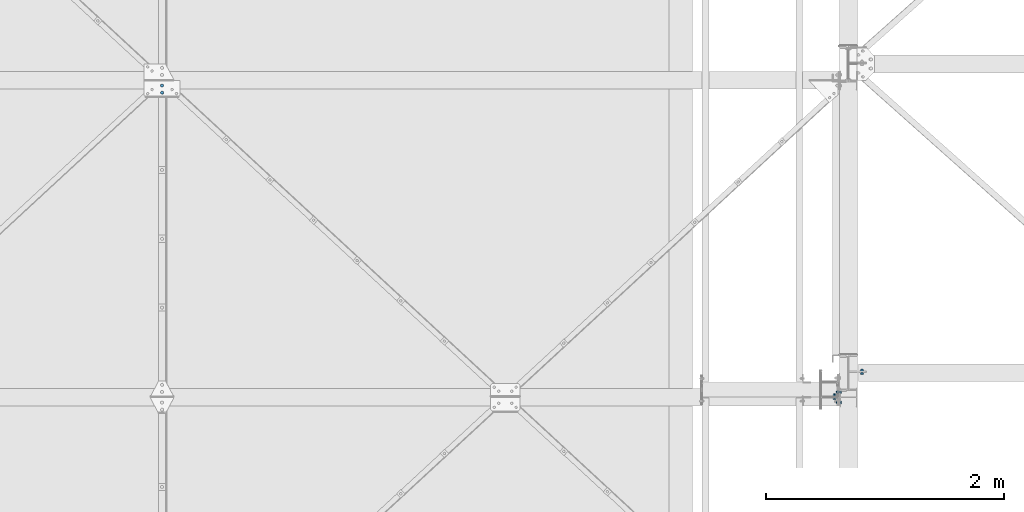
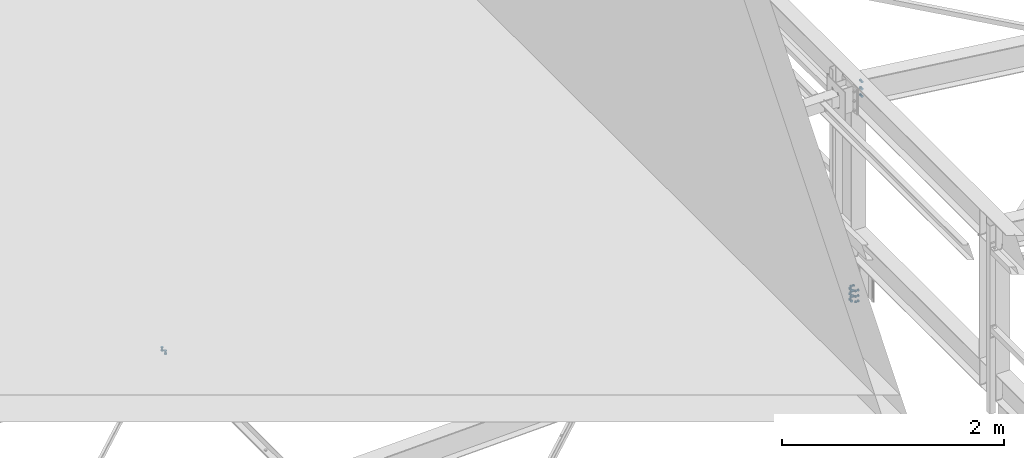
# One storey, part 196 of 3134: 5 mechanical fasteners, 4 elements without a shape of their own.
"""IFC2X3 building model written with IfcOpenShell, lengths in millimetres."""

from ifc_helpers import new_model, si_unit, frame, origin_with_axes, place, context, subcontext, project, spatial, faceted_brep, source, transform, mapped, material, type_object, element, aggregate, save


model = new_model("IFC2X3")

# Units and contexts
model_context = context("Model", 3, precision=1e-05, world=origin_with_axes())
body_context = subcontext(model_context, "Body", "Model", "MODEL_VIEW")
ifc_project = project(units=[si_unit("LENGTHUNIT", "METRE", prefix="MILLI"), si_unit("AREAUNIT", "SQUARE_METRE"), si_unit("VOLUMEUNIT", "CUBIC_METRE"), si_unit("MASSUNIT", "GRAM", prefix="KILO"), si_unit("TIMEUNIT", "SECOND"), si_unit("PLANEANGLEUNIT", "RADIAN"), si_unit("SOLIDANGLEUNIT", "STERADIAN"), si_unit("THERMODYNAMICTEMPERATUREUNIT", "DEGREE_CELSIUS"), si_unit("LUMINOUSINTENSITYUNIT", "LUMEN")], contexts=[model_context])

# Site, building, storey
site_placement = place(None, origin_with_axes())
site = spatial("IfcSite", under=ifc_project, at=site_placement, CompositionType="ELEMENT")
building_placement = place(site_placement, origin_with_axes())
building = spatial("IfcBuilding", under=site, at=building_placement, Name="Undefined", CompositionType="ELEMENT")
storey_placement = place(building_placement, origin_with_axes())
storey = spatial("IfcBuildingStorey", under=building, at=storey_placement, Name="Undefined", CompositionType="ELEMENT", Elevation=0.0)

# Assembly, mechanical fastener
assembly_1_placement = place(storey_placement, origin_with_axes())
assembly_1 = element("IfcElementAssembly", 1, at=assembly_1_placement, inside=storey, Name="300", AssemblyPlace="NOTDEFINED", PredefinedType="RIGID_FRAME")
ifc_material = material(Name="8.8")
mechanical_fastener_type = type_object("IfcMechanicalFastenerType", Name="Bolt assembly")
shared_shape_1 = source(origin_with_axes(), body_context, "Body", "Brep", [
    faceted_brep([(13.856406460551, -13.0499999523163, 0.0), (6.92820323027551, -13.0499999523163, 12.0), (-6.92820323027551, -13.0499999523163, 12.0), (-13.856406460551, -13.0499999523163, 1.69692038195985e-15), (-6.92820323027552, -13.0499999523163, -12.0), (6.9282032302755, -13.0499999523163, -12.0), (6.9282032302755, -3.04999995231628, -12.0), (-6.92820323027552, -3.04999995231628, -12.0), (-13.856406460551, -3.04999995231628, 1.69692038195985e-15), (-6.92820323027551, -3.04999995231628, 12.0), (6.92820323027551, -3.04999995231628, 12.0), (13.856406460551, -3.04999995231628, 0.0), (8.0, -3.04999995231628, 0.0), (6.92820323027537, -3.04999995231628, 4.00000000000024), (3.99999999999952, -3.04999995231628, 6.92820323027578), (-8.29068785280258e-13, -3.04999995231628, 8.0), (-4.00000000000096, -3.04999995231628, 6.92820323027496), (-6.9282032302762, -3.04999995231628, 3.99999999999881), (-8.0, -3.04999995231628, -1.65813757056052e-12), (-6.92820323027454, -3.04999995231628, -4.00000000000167), (-3.99999999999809, -3.04999995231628, -6.92820323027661), (2.47832457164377e-12, -3.04999995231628, -8.0), (4.00000000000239, -3.04999995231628, -6.92820323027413), (6.92820323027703, -3.04999995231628, -3.99999999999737), (6.92820323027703, 31.9500000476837, -3.99999999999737), (4.00000000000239, 31.9500000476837, -6.92820323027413), (2.47832457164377e-12, 31.9500000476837, -8.0), (-3.99999999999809, 31.9500000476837, -6.92820323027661), (-6.92820323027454, 31.9500000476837, -4.00000000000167), (-8.0, 31.9500000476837, -1.65813757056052e-12), (-6.9282032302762, 31.9500000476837, 3.99999999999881), (-4.00000000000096, 31.9500000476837, 6.92820323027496), (-8.29068785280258e-13, 31.9500000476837, 8.0), (3.99999999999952, 31.9500000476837, 6.92820323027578), (6.92820323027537, 31.9500000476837, 4.00000000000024), (8.0, 31.9500000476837, 0.0), (13.856406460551, 13.0500000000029, 0.0), (6.92820323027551, 13.0500000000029, 12.0), (-6.92820323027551, 13.0500000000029, 12.0), (-13.856406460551, 13.0500000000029, 1.69692038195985e-15), (-6.92820323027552, 13.0500000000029, -12.0), (6.9282032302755, 13.0500000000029, -12.0), (6.9282032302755, 26.0500000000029, -12.0), (-6.92820323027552, 26.0500000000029, -12.0), (-13.856406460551, 26.0500000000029, 1.69692038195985e-15), (-6.92820323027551, 26.0500000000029, 12.0), (6.92820323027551, 26.0500000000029, 12.0), (13.856406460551, 26.0500000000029, 0.0)], [[[0, 1, 2, 3, 4, 5]], [[6, 7, 8, 9, 10, 11]], [[0, 11, 10, 1]], [[1, 10, 9, 2]], [[2, 9, 8, 3]], [[3, 8, 7, 4]], [[4, 7, 6, 5]], [[5, 6, 11, 0]], [[12, 13, 14, 15, 16, 17, 18, 19, 20, 21, 22, 23]], [[24, 25, 26, 27, 28, 29, 30, 31, 32, 33, 34, 35]], [[12, 35, 34, 13]], [[13, 34, 33, 14]], [[14, 33, 32, 15]], [[15, 32, 31, 16]], [[16, 31, 30, 17]], [[17, 30, 29, 18]], [[18, 29, 28, 19]], [[19, 28, 27, 20]], [[20, 27, 26, 21]], [[21, 26, 25, 22]], [[22, 25, 24, 23]], [[23, 24, 35, 12]], [[36, 37, 38, 39, 40, 41]], [[42, 43, 44, 45, 46, 47]], [[36, 47, 46, 37]], [[37, 46, 45, 38]], [[38, 45, 44, 39]], [[39, 44, 43, 40]], [[40, 43, 42, 41]], [[41, 42, 47, 36]]]),
    faceted_brep([(9.0, 2.95000000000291, 0.0), (7.79422863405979, 2.95000000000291, 4.50000000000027), (4.49999999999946, 2.95000000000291, 7.79422863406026), (-9.3270238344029e-13, 2.95000000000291, 9.0), (-4.50000000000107, 2.95000000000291, 7.79422863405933), (-7.79422863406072, 2.95000000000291, 4.49999999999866), (-9.0, 2.95000000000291, -1.86540476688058e-12), (-7.79422863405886, 2.95000000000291, -4.50000000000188), (-4.49999999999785, 2.95000000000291, -7.79422863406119), (2.78811514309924e-12, 2.95000000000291, -9.0), (4.50000000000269, 2.95000000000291, -7.7942286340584), (7.79422863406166, 2.95000000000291, -4.49999999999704), (7.79422863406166, 13.0500000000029, -4.49999999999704), (4.50000000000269, 13.0500000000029, -7.7942286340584), (2.78811514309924e-12, 13.0500000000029, -9.0), (-4.49999999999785, 13.0500000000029, -7.79422863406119), (-7.79422863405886, 13.0500000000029, -4.50000000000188), (-9.0, 13.0500000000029, -1.86540476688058e-12), (-7.79422863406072, 13.0500000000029, 4.49999999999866), (-4.50000000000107, 13.0500000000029, 7.79422863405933), (-9.3270238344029e-13, 13.0500000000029, 9.0), (4.49999999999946, 13.0500000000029, 7.79422863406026), (7.79422863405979, 13.0500000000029, 4.50000000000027), (9.0, 13.0500000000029, 0.0), (9.0, -2.94999995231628, 0.0), (7.79422863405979, -2.94999995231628, 4.50000000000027), (4.49999999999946, -2.94999995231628, 7.79422863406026), (-9.3270238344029e-13, -2.94999995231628, 9.0), (-4.50000000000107, -2.94999995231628, 7.79422863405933), (-7.79422863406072, -2.94999995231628, 4.49999999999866), (-9.0, -2.94999995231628, -1.86540476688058e-12), (-7.79422863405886, -2.94999995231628, -4.50000000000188), (-4.49999999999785, -2.94999995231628, -7.79422863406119), (2.78811514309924e-12, -2.94999995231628, -9.0), (4.50000000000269, -2.94999995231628, -7.7942286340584), (7.79422863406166, -2.94999995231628, -4.49999999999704), (7.79422863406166, 3.14999995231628, -4.49999999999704), (4.50000000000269, 3.14999995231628, -7.7942286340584), (2.78811514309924e-12, 3.14999995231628, -9.0), (-4.49999999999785, 3.14999995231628, -7.79422863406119), (-7.79422863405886, 3.14999995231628, -4.50000000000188), (-9.0, 3.14999995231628, -1.86540476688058e-12), (-7.79422863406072, 3.14999995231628, 4.49999999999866), (-4.50000000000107, 3.14999995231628, 7.79422863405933), (-9.3270238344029e-13, 3.14999995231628, 9.0), (4.49999999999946, 3.14999995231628, 7.79422863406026), (7.79422863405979, 3.14999995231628, 4.50000000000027), (9.0, 3.14999995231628, 0.0)], [[[0, 1, 2, 3, 4, 5, 6, 7, 8, 9, 10, 11]], [[12, 13, 14, 15, 16, 17, 18, 19, 20, 21, 22, 23]], [[0, 23, 22, 1]], [[1, 22, 21, 2]], [[2, 21, 20, 3]], [[3, 20, 19, 4]], [[4, 19, 18, 5]], [[5, 18, 17, 6]], [[6, 17, 16, 7]], [[7, 16, 15, 8]], [[8, 15, 14, 9]], [[9, 14, 13, 10]], [[10, 13, 12, 11]], [[11, 12, 23, 0]], [[24, 25, 26, 27, 28, 29, 30, 31, 32, 33, 34, 35]], [[36, 37, 38, 39, 40, 41, 42, 43, 44, 45, 46, 47]], [[24, 47, 46, 25]], [[25, 46, 45, 26]], [[26, 45, 44, 27]], [[27, 44, 43, 28]], [[28, 43, 42, 29]], [[29, 42, 41, 30]], [[30, 41, 40, 31]], [[31, 40, 39, 32]], [[32, 39, 38, 33]], [[33, 38, 37, 34]], [[34, 37, 36, 35]], [[35, 36, 47, 24]]]),
])
mechanical_fastener_1_placement = place(assembly_1_placement, frame((20965.0, 32450.0, 5735.35014950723), z_axis=(1.0, 0.0, 0.0), x_axis=(0.0, 0.0, -1.0)))
mechanical_fastener_1 = element("IfcMechanicalFastener", 2, at=mechanical_fastener_1_placement, type_object=mechanical_fastener_type, material=ifc_material, Name="Bolt assembly", NominalDiameter=16.0, NominalLength=35.0, context=body_context, shape_type="MappedRepresentation", body=[
    mapped(shared_shape_1, transform((0.0, 0.0, 0.0))),
    mapped(shared_shape_1, transform((80.0, 0.0, 0.0))),
    mapped(shared_shape_1, transform((160.0, 0.0, 0.0))),
])
aggregate(assembly_1, [mechanical_fastener_1])

assembly_2_placement = place(storey_placement, origin_with_axes())
assembly_2 = element("IfcElementAssembly", 3, at=assembly_2_placement, inside=storey, Name="300", AssemblyPlace="NOTDEFINED", PredefinedType="RIGID_FRAME")
shared_shape_2 = source(origin_with_axes(), body_context, "Body", "Brep", [
    faceted_brep([(13.856406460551, -21.0000017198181, 0.0), (6.92820323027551, -21.0000017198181, 12.0), (-6.92820323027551, -21.0000017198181, 12.0), (-13.856406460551, -21.0000017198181, 1.69692038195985e-15), (-6.92820323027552, -21.0000017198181, -12.0), (6.9282032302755, -21.0000017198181, -12.0), (6.9282032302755, -11.0000017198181, -12.0), (-6.92820323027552, -11.0000017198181, -12.0), (-13.856406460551, -11.0000017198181, 1.69692038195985e-15), (-6.92820323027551, -11.0000017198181, 12.0), (6.92820323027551, -11.0000017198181, 12.0), (13.856406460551, -11.0000017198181, 0.0), (8.0, -11.0000017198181, 0.0), (6.92820323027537, -11.0000017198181, 4.00000000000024), (3.99999999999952, -11.0000017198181, 6.92820323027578), (-8.29068785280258e-13, -11.0000017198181, 8.0), (-4.00000000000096, -11.0000017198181, 6.92820323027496), (-6.9282032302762, -11.0000017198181, 3.99999999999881), (-8.0, -11.0000017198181, -1.65813757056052e-12), (-6.92820323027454, -11.0000017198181, -4.00000000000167), (-3.99999999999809, -11.0000017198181, -6.92820323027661), (2.47832457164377e-12, -11.0000017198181, -8.0), (4.00000000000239, -11.0000017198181, -6.92820323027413), (6.92820323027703, -11.0000017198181, -3.99999999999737), (6.92820323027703, 29.0, -3.99999999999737), (4.00000000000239, 29.0, -6.92820323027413), (2.47832457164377e-12, 29.0, -8.0), (-3.99999999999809, 29.0, -6.92820323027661), (-6.92820323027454, 29.0, -4.00000000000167), (-8.0, 29.0, -1.65813757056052e-12), (-6.9282032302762, 29.0, 3.99999999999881), (-4.00000000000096, 29.0, 6.92820323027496), (-8.29068785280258e-13, 29.0, 8.0), (3.99999999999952, 29.0, 6.92820323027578), (6.92820323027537, 29.0, 4.00000000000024), (8.0, 29.0, 0.0), (13.856406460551, 10.9999982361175, 0.0), (6.92820323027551, 10.9999982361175, 12.0), (-6.92820323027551, 10.9999982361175, 12.0), (-13.856406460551, 10.9999982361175, 1.69692038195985e-15), (-6.92820323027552, 10.9999982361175, -12.0), (6.9282032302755, 10.9999982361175, -12.0), (6.9282032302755, 23.9999999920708, -12.0), (-6.92820323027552, 23.9999999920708, -12.0), (-13.856406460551, 23.9999999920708, 1.69692038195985e-15), (-6.92820323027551, 23.9999999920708, 12.0), (6.92820323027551, 23.9999999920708, 12.0), (13.856406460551, 23.9999999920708, 0.0)], [[[0, 1, 2, 3, 4, 5]], [[6, 7, 8, 9, 10, 11]], [[0, 11, 10, 1]], [[1, 10, 9, 2]], [[2, 9, 8, 3]], [[3, 8, 7, 4]], [[4, 7, 6, 5]], [[5, 6, 11, 0]], [[12, 13, 14, 15, 16, 17, 18, 19, 20, 21, 22, 23]], [[24, 25, 26, 27, 28, 29, 30, 31, 32, 33, 34, 35]], [[12, 35, 34, 13]], [[13, 34, 33, 14]], [[14, 33, 32, 15]], [[15, 32, 31, 16]], [[16, 31, 30, 17]], [[17, 30, 29, 18]], [[18, 29, 28, 19]], [[19, 28, 27, 20]], [[20, 27, 26, 21]], [[21, 26, 25, 22]], [[22, 25, 24, 23]], [[23, 24, 35, 12]], [[36, 37, 38, 39, 40, 41]], [[42, 43, 44, 45, 46, 47]], [[36, 47, 46, 37]], [[37, 46, 45, 38]], [[38, 45, 44, 39]], [[39, 44, 43, 40]], [[40, 43, 42, 41]], [[41, 42, 47, 36]]]),
    faceted_brep([(9.0, -10.9000017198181, 0.0), (7.79422863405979, -10.9000017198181, 4.50000000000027), (4.49999999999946, -10.9000017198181, 7.79422863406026), (-9.3270238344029e-13, -10.9000017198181, 9.0), (-4.50000000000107, -10.9000017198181, 7.79422863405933), (-7.79422863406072, -10.9000017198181, 4.49999999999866), (-9.0, -10.9000017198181, -1.86540476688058e-12), (-7.79422863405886, -10.9000017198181, -4.50000000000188), (-4.49999999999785, -10.9000017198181, -7.79422863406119), (2.78811514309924e-12, -10.9000017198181, -9.0), (4.50000000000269, -10.9000017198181, -7.7942286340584), (7.79422863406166, -10.9000017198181, -4.49999999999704), (7.79422863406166, -3.9, -4.49999999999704), (4.50000000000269, -3.9, -7.7942286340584), (2.78811514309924e-12, -3.9, -9.0), (-4.49999999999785, -3.9, -7.79422863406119), (-7.79422863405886, -3.9, -4.50000000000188), (-9.0, -3.9, -1.86540476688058e-12), (-7.79422863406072, -3.9, 4.49999999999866), (-4.50000000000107, -3.9, 7.79422863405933), (-9.3270238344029e-13, -3.9, 9.0), (4.49999999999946, -3.9, 7.79422863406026), (7.79422863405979, -3.9, 4.50000000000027), (9.0, -3.9, 0.0), (9.0, -3.99999624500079, 0.0), (7.79422863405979, -3.99999624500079, 4.50000000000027), (4.49999999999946, -3.99999624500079, 7.79422863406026), (-9.3270238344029e-13, -3.99999624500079, 9.0), (-4.50000000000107, -3.99999624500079, 7.79422863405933), (-7.79422863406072, -3.99999624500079, 4.49999999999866), (-9.0, -3.99999624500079, -1.86540476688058e-12), (-7.79422863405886, -3.99999624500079, -4.50000000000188), (-4.49999999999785, -3.99999624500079, -7.79422863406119), (2.78811514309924e-12, -3.99999624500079, -9.0), (4.50000000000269, -3.99999624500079, -7.7942286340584), (7.79422863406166, -3.99999624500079, -4.49999999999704), (7.79422863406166, 4.00000375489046, -4.49999999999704), (4.50000000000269, 4.00000375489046, -7.7942286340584), (2.78811514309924e-12, 4.00000375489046, -9.0), (-4.49999999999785, 4.00000375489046, -7.79422863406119), (-7.79422863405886, 4.00000375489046, -4.50000000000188), (-9.0, 4.00000375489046, -1.86540476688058e-12), (-7.79422863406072, 4.00000375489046, 4.49999999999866), (-4.50000000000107, 4.00000375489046, 7.79422863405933), (-9.3270238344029e-13, 4.00000375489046, 9.0), (4.49999999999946, 4.00000375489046, 7.79422863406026), (7.79422863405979, 4.00000375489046, 4.50000000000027), (9.0, 4.00000375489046, 0.0), (9.0, 3.9, 0.0), (7.79422863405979, 3.9, 4.50000000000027), (4.49999999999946, 3.9, 7.79422863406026), (-9.3270238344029e-13, 3.9, 9.0), (-4.50000000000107, 3.9, 7.79422863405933), (-7.79422863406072, 3.9, 4.49999999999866), (-9.0, 3.9, -1.86540476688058e-12), (-7.79422863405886, 3.9, -4.50000000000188), (-4.49999999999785, 3.9, -7.79422863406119), (2.78811514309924e-12, 3.9, -9.0), (4.50000000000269, 3.9, -7.7942286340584), (7.79422863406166, 3.9, -4.49999999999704), (7.79422863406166, 10.9999982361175, -4.49999999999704), (4.50000000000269, 10.9999982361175, -7.7942286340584), (2.78811514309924e-12, 10.9999982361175, -9.0), (-4.49999999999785, 10.9999982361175, -7.79422863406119), (-7.79422863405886, 10.9999982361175, -4.50000000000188), (-9.0, 10.9999982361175, -1.86540476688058e-12), (-7.79422863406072, 10.9999982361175, 4.49999999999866), (-4.50000000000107, 10.9999982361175, 7.79422863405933), (-9.3270238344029e-13, 10.9999982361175, 9.0), (4.49999999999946, 10.9999982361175, 7.79422863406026), (7.79422863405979, 10.9999982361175, 4.50000000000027), (9.0, 10.9999982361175, 0.0)], [[[0, 1, 2, 3, 4, 5, 6, 7, 8, 9, 10, 11]], [[12, 13, 14, 15, 16, 17, 18, 19, 20, 21, 22, 23]], [[0, 23, 22, 1]], [[1, 22, 21, 2]], [[2, 21, 20, 3]], [[3, 20, 19, 4]], [[4, 19, 18, 5]], [[5, 18, 17, 6]], [[6, 17, 16, 7]], [[7, 16, 15, 8]], [[8, 15, 14, 9]], [[9, 14, 13, 10]], [[10, 13, 12, 11]], [[11, 12, 23, 0]], [[24, 25, 26, 27, 28, 29, 30, 31, 32, 33, 34, 35]], [[36, 37, 38, 39, 40, 41, 42, 43, 44, 45, 46, 47]], [[24, 47, 46, 25]], [[25, 46, 45, 26]], [[26, 45, 44, 27]], [[27, 44, 43, 28]], [[28, 43, 42, 29]], [[29, 42, 41, 30]], [[30, 41, 40, 31]], [[31, 40, 39, 32]], [[32, 39, 38, 33]], [[33, 38, 37, 34]], [[34, 37, 36, 35]], [[35, 36, 47, 24]], [[48, 49, 50, 51, 52, 53, 54, 55, 56, 57, 58, 59]], [[60, 61, 62, 63, 64, 65, 66, 67, 68, 69, 70, 71]], [[48, 71, 70, 49]], [[49, 70, 69, 50]], [[50, 69, 68, 51]], [[51, 68, 67, 52]], [[52, 67, 66, 53]], [[53, 66, 65, 54]], [[54, 65, 64, 55]], [[55, 64, 63, 56]], [[56, 63, 62, 57]], [[57, 62, 61, 58]], [[58, 61, 60, 59]], [[59, 60, 71, 48]]]),
])
mechanical_fastener_2_placement = place(assembly_2_placement, frame((15072.5010771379, 34867.5, 3386.35293761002), z_axis=(0.999519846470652, 0.0, 0.0309851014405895), x_axis=(0.0, -1.0, 0.0)))
mechanical_fastener_2 = element("IfcMechanicalFastener", 4, at=mechanical_fastener_2_placement, type_object=mechanical_fastener_type, material=ifc_material, Name="Bolt assembly", NominalDiameter=16.0, NominalLength=40.0, context=body_context, shape_type="MappedRepresentation", body=[
    mapped(shared_shape_2, transform((0.0, 0.0, 0.0))),
    mapped(shared_shape_2, transform((59.9999999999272, 0.0, 5.40239852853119e-10))),
])
aggregate(assembly_2, [mechanical_fastener_2])

assembly_3_placement = place(storey_placement, origin_with_axes())
assembly_3 = element("IfcElementAssembly", 5, at=assembly_3_placement, inside=storey, AssemblyPlace="NOTDEFINED", PredefinedType="RIGID_FRAME")
shared_shape_3 = source(origin_with_axes(), body_context, "Body", "Brep", [
    faceted_brep([(13.856406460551, -20.0400000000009, 0.0), (6.92820323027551, -20.0400000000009, 12.0), (-6.92820323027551, -20.0400000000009, 12.0), (-13.856406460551, -20.0400000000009, 1.69692038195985e-15), (-6.92820323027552, -20.0400000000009, -12.0), (6.9282032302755, -20.0400000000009, -12.0), (6.9282032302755, -10.0400000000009, -12.0), (-6.92820323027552, -10.0400000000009, -12.0), (-13.856406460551, -10.0400000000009, 1.69692038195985e-15), (-6.92820323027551, -10.0400000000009, 12.0), (6.92820323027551, -10.0400000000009, 12.0), (13.856406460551, -10.0400000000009, 0.0), (8.0, -10.0400000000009, 0.0), (6.92820323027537, -10.0400000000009, 4.00000000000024), (3.99999999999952, -10.0400000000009, 6.92820323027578), (-8.29068785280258e-13, -10.0400000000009, 8.0), (-4.00000000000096, -10.0400000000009, 6.92820323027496), (-6.9282032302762, -10.0400000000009, 3.99999999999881), (-8.0, -10.0400000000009, -1.65813757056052e-12), (-6.92820323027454, -10.0400000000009, -4.00000000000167), (-3.99999999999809, -10.0400000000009, -6.92820323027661), (2.47832457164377e-12, -10.0400000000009, -8.0), (4.00000000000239, -10.0400000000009, -6.92820323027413), (6.92820323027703, -10.0400000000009, -3.99999999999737), (6.92820323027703, 29.9599999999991, -3.99999999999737), (4.00000000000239, 29.9599999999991, -6.92820323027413), (2.47832457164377e-12, 29.9599999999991, -8.0), (-3.99999999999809, 29.9599999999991, -6.92820323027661), (-6.92820323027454, 29.9599999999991, -4.00000000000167), (-8.0, 29.9599999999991, -1.65813757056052e-12), (-6.9282032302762, 29.9599999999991, 3.99999999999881), (-4.00000000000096, 29.9599999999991, 6.92820323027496), (-8.29068785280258e-13, 29.9599999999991, 8.0), (3.99999999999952, 29.9599999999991, 6.92820323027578), (6.92820323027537, 29.9599999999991, 4.00000000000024), (8.0, 29.9599999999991, 0.0), (13.856406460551, 10.0400000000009, 0.0), (6.92820323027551, 10.0400000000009, 12.0), (-6.92820323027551, 10.0400000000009, 12.0), (-13.856406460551, 10.0400000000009, 1.69692038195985e-15), (-6.92820323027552, 10.0400000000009, -12.0), (6.9282032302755, 10.0400000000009, -12.0), (6.9282032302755, 23.0400000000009, -12.0), (-6.92820323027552, 23.0400000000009, -12.0), (-13.856406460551, 23.0400000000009, 1.69692038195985e-15), (-6.92820323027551, 23.0400000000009, 12.0), (6.92820323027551, 23.0400000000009, 12.0), (13.856406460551, 23.0400000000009, 0.0)], [[[0, 1, 2, 3, 4, 5]], [[6, 7, 8, 9, 10, 11]], [[0, 11, 10, 1]], [[1, 10, 9, 2]], [[2, 9, 8, 3]], [[3, 8, 7, 4]], [[4, 7, 6, 5]], [[5, 6, 11, 0]], [[12, 13, 14, 15, 16, 17, 18, 19, 20, 21, 22, 23]], [[24, 25, 26, 27, 28, 29, 30, 31, 32, 33, 34, 35]], [[12, 35, 34, 13]], [[13, 34, 33, 14]], [[14, 33, 32, 15]], [[15, 32, 31, 16]], [[16, 31, 30, 17]], [[17, 30, 29, 18]], [[18, 29, 28, 19]], [[19, 28, 27, 20]], [[20, 27, 26, 21]], [[21, 26, 25, 22]], [[22, 25, 24, 23]], [[23, 24, 35, 12]], [[36, 37, 38, 39, 40, 41]], [[42, 43, 44, 45, 46, 47]], [[36, 47, 46, 37]], [[37, 46, 45, 38]], [[38, 45, 44, 39]], [[39, 44, 43, 40]], [[40, 43, 42, 41]], [[41, 42, 47, 36]]]),
    faceted_brep([(9.0, -3.04999995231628, 0.0), (7.79422863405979, -3.04999995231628, 4.50000000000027), (4.49999999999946, -3.04999995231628, 7.79422863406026), (-9.3270238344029e-13, -3.04999995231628, 9.0), (-4.50000000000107, -3.04999995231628, 7.79422863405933), (-7.79422863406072, -3.04999995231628, 4.49999999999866), (-9.0, -3.04999995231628, -1.86540476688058e-12), (-7.79422863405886, -3.04999995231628, -4.50000000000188), (-4.49999999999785, -3.04999995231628, -7.79422863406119), (2.78811514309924e-12, -3.04999995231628, -9.0), (4.50000000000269, -3.04999995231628, -7.7942286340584), (7.79422863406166, -3.04999995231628, -4.49999999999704), (7.79422863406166, 3.04999995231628, -4.49999999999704), (4.50000000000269, 3.04999995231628, -7.7942286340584), (2.78811514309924e-12, 3.04999995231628, -9.0), (-4.49999999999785, 3.04999995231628, -7.79422863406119), (-7.79422863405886, 3.04999995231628, -4.50000000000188), (-9.0, 3.04999995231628, -1.86540476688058e-12), (-7.79422863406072, 3.04999995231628, 4.49999999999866), (-4.50000000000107, 3.04999995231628, 7.79422863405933), (-9.3270238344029e-13, 3.04999995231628, 9.0), (4.49999999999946, 3.04999995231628, 7.79422863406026), (7.79422863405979, 3.04999995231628, 4.50000000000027), (9.0, 3.04999995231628, 0.0), (9.0, -9.94000000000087, 0.0), (7.79422863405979, -9.94000000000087, 4.50000000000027), (4.49999999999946, -9.94000000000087, 7.79422863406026), (-9.3270238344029e-13, -9.94000000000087, 9.0), (-4.50000000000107, -9.94000000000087, 7.79422863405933), (-7.79422863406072, -9.94000000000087, 4.49999999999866), (-9.0, -9.94000000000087, -1.86540476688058e-12), (-7.79422863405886, -9.94000000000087, -4.50000000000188), (-4.49999999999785, -9.94000000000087, -7.79422863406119), (2.78811514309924e-12, -9.94000000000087, -9.0), (4.50000000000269, -9.94000000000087, -7.7942286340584), (7.79422863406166, -9.94000000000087, -4.49999999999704), (7.79422863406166, -2.94000000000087, -4.49999999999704), (4.50000000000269, -2.94000000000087, -7.7942286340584), (2.78811514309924e-12, -2.94000000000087, -9.0), (-4.49999999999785, -2.94000000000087, -7.79422863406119), (-7.79422863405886, -2.94000000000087, -4.50000000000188), (-9.0, -2.94000000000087, -1.86540476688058e-12), (-7.79422863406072, -2.94000000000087, 4.49999999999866), (-4.50000000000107, -2.94000000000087, 7.79422863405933), (-9.3270238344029e-13, -2.94000000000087, 9.0), (4.49999999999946, -2.94000000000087, 7.79422863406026), (7.79422863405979, -2.94000000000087, 4.50000000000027), (9.0, -2.94000000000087, 0.0), (9.0, 2.94000000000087, 0.0), (7.79422863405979, 2.94000000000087, 4.50000000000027), (4.49999999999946, 2.94000000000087, 7.79422863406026), (-9.3270238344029e-13, 2.94000000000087, 9.0), (-4.50000000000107, 2.94000000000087, 7.79422863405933), (-7.79422863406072, 2.94000000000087, 4.49999999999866), (-9.0, 2.94000000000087, -1.86540476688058e-12), (-7.79422863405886, 2.94000000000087, -4.50000000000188), (-4.49999999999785, 2.94000000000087, -7.79422863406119), (2.78811514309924e-12, 2.94000000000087, -9.0), (4.50000000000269, 2.94000000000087, -7.7942286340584), (7.79422863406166, 2.94000000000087, -4.49999999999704), (7.79422863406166, 10.0400000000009, -4.49999999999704), (4.50000000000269, 10.0400000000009, -7.7942286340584), (2.78811514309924e-12, 10.0400000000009, -9.0), (-4.49999999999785, 10.0400000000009, -7.79422863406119), (-7.79422863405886, 10.0400000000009, -4.50000000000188), (-9.0, 10.0400000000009, -1.86540476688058e-12), (-7.79422863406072, 10.0400000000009, 4.49999999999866), (-4.50000000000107, 10.0400000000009, 7.79422863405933), (-9.3270238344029e-13, 10.0400000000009, 9.0), (4.49999999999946, 10.0400000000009, 7.79422863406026), (7.79422863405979, 10.0400000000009, 4.50000000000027), (9.0, 10.0400000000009, 0.0)], [[[0, 1, 2, 3, 4, 5, 6, 7, 8, 9, 10, 11]], [[12, 13, 14, 15, 16, 17, 18, 19, 20, 21, 22, 23]], [[0, 23, 22, 1]], [[1, 22, 21, 2]], [[2, 21, 20, 3]], [[3, 20, 19, 4]], [[4, 19, 18, 5]], [[5, 18, 17, 6]], [[6, 17, 16, 7]], [[7, 16, 15, 8]], [[8, 15, 14, 9]], [[9, 14, 13, 10]], [[10, 13, 12, 11]], [[11, 12, 23, 0]], [[24, 25, 26, 27, 28, 29, 30, 31, 32, 33, 34, 35]], [[36, 37, 38, 39, 40, 41, 42, 43, 44, 45, 46, 47]], [[24, 47, 46, 25]], [[25, 46, 45, 26]], [[26, 45, 44, 27]], [[27, 44, 43, 28]], [[28, 43, 42, 29]], [[29, 42, 41, 30]], [[30, 41, 40, 31]], [[31, 40, 39, 32]], [[32, 39, 38, 33]], [[33, 38, 37, 34]], [[34, 37, 36, 35]], [[35, 36, 47, 24]], [[48, 49, 50, 51, 52, 53, 54, 55, 56, 57, 58, 59]], [[60, 61, 62, 63, 64, 65, 66, 67, 68, 69, 70, 71]], [[48, 71, 70, 49]], [[49, 70, 69, 50]], [[50, 69, 68, 51]], [[51, 68, 67, 52]], [[52, 67, 66, 53]], [[53, 66, 65, 54]], [[54, 65, 64, 55]], [[55, 64, 63, 56]], [[56, 63, 62, 57]], [[57, 62, 61, 58]], [[58, 61, 60, 59]], [[59, 60, 71, 48]]]),
])
mechanical_fastener_3_placement = place(assembly_3_placement, frame((20734.0000000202, 32243.75, 3648.83272487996), z_axis=(1.0, 0.0, 0.0), x_axis=(0.0, 0.0, -1.0)))
mechanical_fastener_3 = element("IfcMechanicalFastener", 6, at=mechanical_fastener_3_placement, type_object=mechanical_fastener_type, material=ifc_material, Name="Bolt assembly", NominalDiameter=16.0, NominalLength=40.0, context=body_context, shape_type="MappedRepresentation", body=[
    mapped(shared_shape_3, transform((0.0, 0.0, 0.0))),
    mapped(shared_shape_3, transform((59.9999999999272, 0.0, 5.40239852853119e-10))),
    mapped(shared_shape_3, transform((120.0, 0.0, 0.0))),
])

assembly_4_placement = place(storey_placement, origin_with_axes())
assembly_4 = element("IfcElementAssembly", 7, at=assembly_4_placement, inside=storey, AssemblyPlace="NOTDEFINED", PredefinedType="RIGID_FRAME")
shared_shape_4 = source(origin_with_axes(), body_context, "Body", "Brep", [
    faceted_brep([(13.856406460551, -19.0, 0.0), (6.92820323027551, -19.0, 12.0), (-6.92820323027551, -19.0, 12.0), (-13.856406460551, -19.0, 1.69692038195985e-15), (-6.92820323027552, -19.0, -12.0), (6.9282032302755, -19.0, -12.0), (6.9282032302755, -9.0, -12.0), (-6.92820323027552, -9.0, -12.0), (-13.856406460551, -9.0, 1.69692038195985e-15), (-6.92820323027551, -9.0, 12.0), (6.92820323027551, -9.0, 12.0), (13.856406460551, -9.0, 0.0), (8.0, -9.0, 0.0), (6.92820323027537, -9.0, 4.00000000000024), (3.99999999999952, -9.0, 6.92820323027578), (-8.29068785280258e-13, -9.0, 8.0), (-4.00000000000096, -9.0, 6.92820323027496), (-6.9282032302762, -9.0, 3.99999999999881), (-8.0, -9.0, -1.65813757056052e-12), (-6.92820323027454, -9.0, -4.00000000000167), (-3.99999999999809, -9.0, -6.92820323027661), (2.47832457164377e-12, -9.0, -8.0), (4.00000000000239, -9.0, -6.92820323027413), (6.92820323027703, -9.0, -3.99999999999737), (6.92820323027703, 26.0, -3.99999999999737), (4.00000000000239, 26.0, -6.92820323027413), (2.47832457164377e-12, 26.0, -8.0), (-3.99999999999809, 26.0, -6.92820323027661), (-6.92820323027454, 26.0, -4.00000000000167), (-8.0, 26.0, -1.65813757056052e-12), (-6.9282032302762, 26.0, 3.99999999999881), (-4.00000000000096, 26.0, 6.92820323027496), (-8.29068785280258e-13, 26.0, 8.0), (3.99999999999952, 26.0, 6.92820323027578), (6.92820323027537, 26.0, 4.00000000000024), (8.0, 26.0, 0.0), (13.856406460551, 7.0, 0.0), (6.92820323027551, 7.0, 12.0), (-6.92820323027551, 7.0, 12.0), (-13.856406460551, 7.0, 1.69692038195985e-15), (-6.92820323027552, 7.0, -12.0), (6.9282032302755, 7.0, -12.0), (6.9282032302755, 20.0, -12.0), (-6.92820323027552, 20.0, -12.0), (-13.856406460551, 20.0, 1.69692038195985e-15), (-6.92820323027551, 20.0, 12.0), (6.92820323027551, 20.0, 12.0), (13.856406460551, 20.0, 0.0)], [[[0, 1, 2, 3, 4, 5]], [[6, 7, 8, 9, 10, 11]], [[0, 11, 10, 1]], [[1, 10, 9, 2]], [[2, 9, 8, 3]], [[3, 8, 7, 4]], [[4, 7, 6, 5]], [[5, 6, 11, 0]], [[12, 13, 14, 15, 16, 17, 18, 19, 20, 21, 22, 23]], [[24, 25, 26, 27, 28, 29, 30, 31, 32, 33, 34, 35]], [[12, 35, 34, 13]], [[13, 34, 33, 14]], [[14, 33, 32, 15]], [[15, 32, 31, 16]], [[16, 31, 30, 17]], [[17, 30, 29, 18]], [[18, 29, 28, 19]], [[19, 28, 27, 20]], [[20, 27, 26, 21]], [[21, 26, 25, 22]], [[22, 25, 24, 23]], [[23, 24, 35, 12]], [[36, 37, 38, 39, 40, 41]], [[42, 43, 44, 45, 46, 47]], [[36, 47, 46, 37]], [[37, 46, 45, 38]], [[38, 45, 44, 39]], [[39, 44, 43, 40]], [[40, 43, 42, 41]], [[41, 42, 47, 36]]]),
    faceted_brep([(9.0, -8.9, 0.0), (7.79422863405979, -8.9, 4.50000000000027), (4.49999999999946, -8.9, 7.79422863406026), (-9.3270238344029e-13, -8.9, 9.0), (-4.50000000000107, -8.9, 7.79422863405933), (-7.79422863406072, -8.9, 4.49999999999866), (-9.0, -8.9, -1.86540476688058e-12), (-7.79422863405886, -8.9, -4.50000000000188), (-4.49999999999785, -8.9, -7.79422863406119), (2.78811514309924e-12, -8.9, -9.0), (4.50000000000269, -8.9, -7.7942286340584), (7.79422863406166, -8.9, -4.49999999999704), (7.79422863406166, 0.100000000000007, -4.49999999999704), (4.50000000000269, 0.100000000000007, -7.7942286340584), (2.78811514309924e-12, 0.100000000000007, -9.0), (-4.49999999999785, 0.100000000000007, -7.79422863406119), (-7.79422863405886, 0.100000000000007, -4.50000000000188), (-9.0, 0.100000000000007, -1.86540476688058e-12), (-7.79422863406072, 0.100000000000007, 4.49999999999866), (-4.50000000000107, 0.100000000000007, 7.79422863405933), (-9.3270238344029e-13, 0.100000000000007, 9.0), (4.49999999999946, 0.100000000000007, 7.79422863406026), (7.79422863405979, 0.100000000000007, 4.50000000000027), (9.0, 0.100000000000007, 0.0), (9.0, -0.1, 0.0), (7.79422863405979, -0.1, 4.50000000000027), (4.49999999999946, -0.1, 7.79422863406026), (-9.3270238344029e-13, -0.1, 9.0), (-4.50000000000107, -0.1, 7.79422863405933), (-7.79422863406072, -0.1, 4.49999999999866), (-9.0, -0.1, -1.86540476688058e-12), (-7.79422863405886, -0.1, -4.50000000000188), (-4.49999999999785, -0.1, -7.79422863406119), (2.78811514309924e-12, -0.1, -9.0), (4.50000000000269, -0.1, -7.7942286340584), (7.79422863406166, -0.1, -4.49999999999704), (7.79422863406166, 7.0, -4.49999999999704), (4.50000000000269, 7.0, -7.7942286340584), (2.78811514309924e-12, 7.0, -9.0), (-4.49999999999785, 7.0, -7.79422863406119), (-7.79422863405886, 7.0, -4.50000000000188), (-9.0, 7.0, -1.86540476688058e-12), (-7.79422863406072, 7.0, 4.49999999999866), (-4.50000000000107, 7.0, 7.79422863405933), (-9.3270238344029e-13, 7.0, 9.0), (4.49999999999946, 7.0, 7.79422863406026), (7.79422863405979, 7.0, 4.50000000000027), (9.0, 7.0, 0.0)], [[[0, 1, 2, 3, 4, 5, 6, 7, 8, 9, 10, 11]], [[12, 13, 14, 15, 16, 17, 18, 19, 20, 21, 22, 23]], [[0, 23, 22, 1]], [[1, 22, 21, 2]], [[2, 21, 20, 3]], [[3, 20, 19, 4]], [[4, 19, 18, 5]], [[5, 18, 17, 6]], [[6, 17, 16, 7]], [[7, 16, 15, 8]], [[8, 15, 14, 9]], [[9, 14, 13, 10]], [[10, 13, 12, 11]], [[11, 12, 23, 0]], [[24, 25, 26, 27, 28, 29, 30, 31, 32, 33, 34, 35]], [[36, 37, 38, 39, 40, 41, 42, 43, 44, 45, 46, 47]], [[24, 47, 46, 25]], [[25, 46, 45, 26]], [[26, 45, 44, 27]], [[27, 44, 43, 28]], [[28, 43, 42, 29]], [[29, 42, 41, 30]], [[30, 41, 40, 31]], [[31, 40, 39, 32]], [[32, 39, 38, 33]], [[33, 38, 37, 34]], [[34, 37, 36, 35]], [[35, 36, 47, 24]]]),
])
mechanical_fastener_4_placement = place(assembly_4_placement, frame((20774.0000000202, 32286.79, 3648.83272487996), z_axis=(0.0, 1.0, 0.0), x_axis=(0.0, 0.0, -1.0)))
mechanical_fastener_4 = element("IfcMechanicalFastener", 8, at=mechanical_fastener_4_placement, type_object=mechanical_fastener_type, material=ifc_material, Name="Bolt assembly", NominalDiameter=16.0, NominalLength=35.0, context=body_context, shape_type="MappedRepresentation", body=[
    mapped(shared_shape_4, transform((0.0, 0.0, 0.0))),
    mapped(shared_shape_4, transform((59.9999999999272, 0.0, 5.40239852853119e-10))),
    mapped(shared_shape_4, transform((120.0, 0.0, 0.0))),
])
aggregate(assembly_4, [mechanical_fastener_4])

# Mechanical fastener
mechanical_fastener_5_placement = place(assembly_3_placement, frame((20774.0000000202, 32200.71, 3648.83272487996), z_axis=(0.0, 1.0, 0.0), x_axis=(0.0, 0.0, -1.0)))
mechanical_fastener_5 = element("IfcMechanicalFastener", 9, at=mechanical_fastener_5_placement, type_object=mechanical_fastener_type, material=ifc_material, Name="Bolt assembly", NominalDiameter=16.0, NominalLength=35.0, context=body_context, shape_type="MappedRepresentation", body=[
    mapped(shared_shape_4, transform((0.0, 0.0, 0.0))),
    mapped(shared_shape_4, transform((59.9999999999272, 0.0, 5.40239852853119e-10))),
    mapped(shared_shape_4, transform((120.0, 0.0, 0.0))),
])

aggregate(assembly_3, [mechanical_fastener_3, mechanical_fastener_5])

save(model, "model.ifc")
